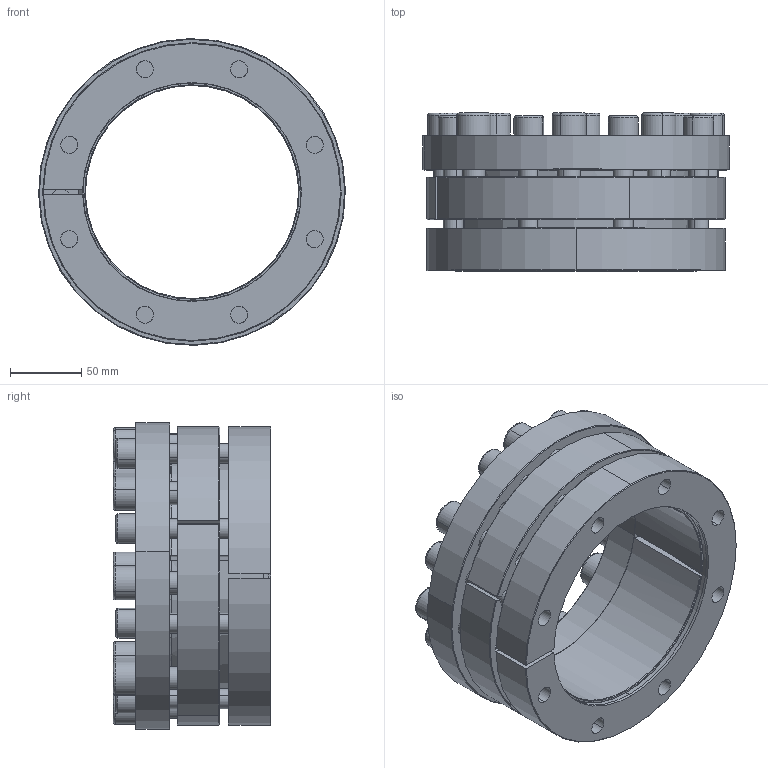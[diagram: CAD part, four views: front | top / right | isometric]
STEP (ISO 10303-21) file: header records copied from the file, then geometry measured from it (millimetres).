
FILE_DESCRIPTION (( 'STEP AP214' ), '1' );
FILE_NAME ('CONEX-P-150x210-P-030.step', '2015-11-30T21:13:33', ( '' ), ( '' ), 'SwSTEP 2.0', 'SolidWorks 2013', '' );
FILE_SCHEMA (( 'AUTOMOTIVE_DESIGN' ));
Length unit declared in the file: millimetre
Products named in the file (1): CONEX-P-150x210-P-030
Bounding box: 215.97 x 111 x 215.97 mm (x, y, z)
Volume: 1543806.7 mm3; surface area: 377960.9 mm2
Topology: 19 solids, 19 shells, 606 faces, 1413 edges, 846 vertices
Faces by surface type: plane 261, cylinder 171, cone 108, torus 66
Entity records: 24849 total; most frequent: CARTESIAN_POINT 3820, DIRECTION 3159, ORIENTED_EDGE 2762, EDGE_CURVE 1381, AXIS2_PLACEMENT_3D 1263, VERTEX_POINT 846, EDGE_LOOP 727, CIRCLE 656
